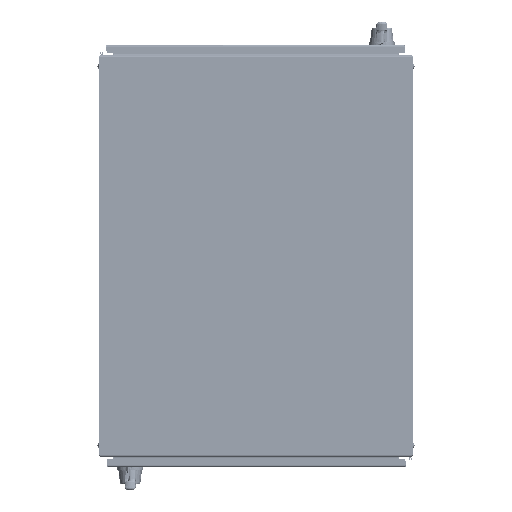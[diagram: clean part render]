
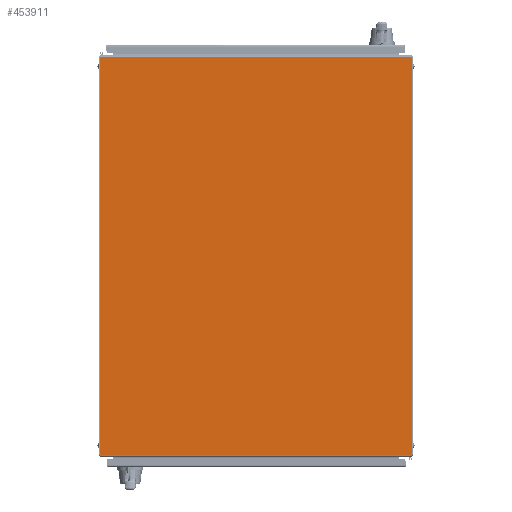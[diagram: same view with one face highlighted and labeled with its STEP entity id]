
A CAD part, front view. The second image highlights one B-rep face of the part: STEP entity #453911.
In plain terms, the highlighted planar face has unit normal (0, -1, 0).
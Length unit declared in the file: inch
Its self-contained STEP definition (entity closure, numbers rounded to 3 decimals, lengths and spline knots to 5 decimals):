
#10749 = EDGE_LOOP ( 'NONE', ( #172979, #100826, #132530, #336847 ) ) ;
#28661 = VECTOR ( 'NONE', #188563, 39.37008 ) ;
#32721 = DIRECTION ( 'NONE',  ( 0., 0., 1. ) ) ;
#35456 = VERTEX_POINT ( 'NONE', #216526 ) ;
#60100 = EDGE_CURVE ( 'NONE', #35456, #322921, #264489, .T. ) ;
#100826 = ORIENTED_EDGE ( 'NONE', *, *, #303866, .F. ) ;
#125935 = DIRECTION ( 'NONE',  ( 0., 0., -1. ) ) ;
#132530 = ORIENTED_EDGE ( 'NONE', *, *, #206791, .T. ) ;
#140634 = CARTESIAN_POINT ( 'NONE',  ( -17.9185, 0., 46.062 ) ) ;
#156682 = VECTOR ( 'NONE', #251768, 39.37008 ) ;
#157015 = FACE_OUTER_BOUND ( 'NONE', #10749, .T. ) ;
#157109 = VECTOR ( 'NONE', #438723, 39.37008 ) ;
#162929 = VECTOR ( 'NONE', #125935, 39.37008 ) ;
#169382 = CARTESIAN_POINT ( 'NONE',  ( -17.9185, 0., 45.854 ) ) ;
#172979 = ORIENTED_EDGE ( 'NONE', *, *, #399022, .T. ) ;
#188563 = DIRECTION ( 'NONE',  ( -1., 0., 0. ) ) ;
#206791 = EDGE_CURVE ( 'NONE', #294666, #322921, #221887, .T. ) ;
#216526 = CARTESIAN_POINT ( 'NONE',  ( -17.9185, 0., 0.208 ) ) ;
#221887 = LINE ( 'NONE', #442161, #28661 ) ;
#245534 = CARTESIAN_POINT ( 'NONE',  ( 17.9185, 0., 0.208 ) ) ;
#247923 = LINE ( 'NONE', #379598, #162929 ) ;
#250082 = DIRECTION ( 'NONE',  ( 0., 1., 0. ) ) ;
#251768 = DIRECTION ( 'NONE',  ( 0., 0., 1. ) ) ;
#253496 = LINE ( 'NONE', #402192, #157109 ) ;
#264489 = LINE ( 'NONE', #288207, #156682 ) ;
#283680 = CARTESIAN_POINT ( 'NONE',  ( 17.9185, 0., 45.854 ) ) ;
#288207 = CARTESIAN_POINT ( 'NONE',  ( -17.9185, 0., 0. ) ) ;
#294666 = VERTEX_POINT ( 'NONE', #283680 ) ;
#303866 = EDGE_CURVE ( 'NONE', #294666, #360955, #247923, .T. ) ;
#322921 = VERTEX_POINT ( 'NONE', #169382 ) ;
#336847 = ORIENTED_EDGE ( 'NONE', *, *, #60100, .F. ) ;
#360955 = VERTEX_POINT ( 'NONE', #245534 ) ;
#379598 = CARTESIAN_POINT ( 'NONE',  ( 17.9185, 0., 0. ) ) ;
#399022 = EDGE_CURVE ( 'NONE', #35456, #360955, #253496, .T. ) ;
#402192 = CARTESIAN_POINT ( 'NONE',  ( -17.9185, 0., 0.208 ) ) ;
#413591 = AXIS2_PLACEMENT_3D ( 'NONE', #140634, #250082, #32721 ) ;
#430782 = PLANE ( 'NONE',  #413591 ) ;
#438723 = DIRECTION ( 'NONE',  ( 1., 0., 0. ) ) ;
#442161 = CARTESIAN_POINT ( 'NONE',  ( 17.9185, 0., 45.854 ) ) ;
#453911 = ADVANCED_FACE ( 'NONE', ( #157015 ), #430782, .F. ) ;
